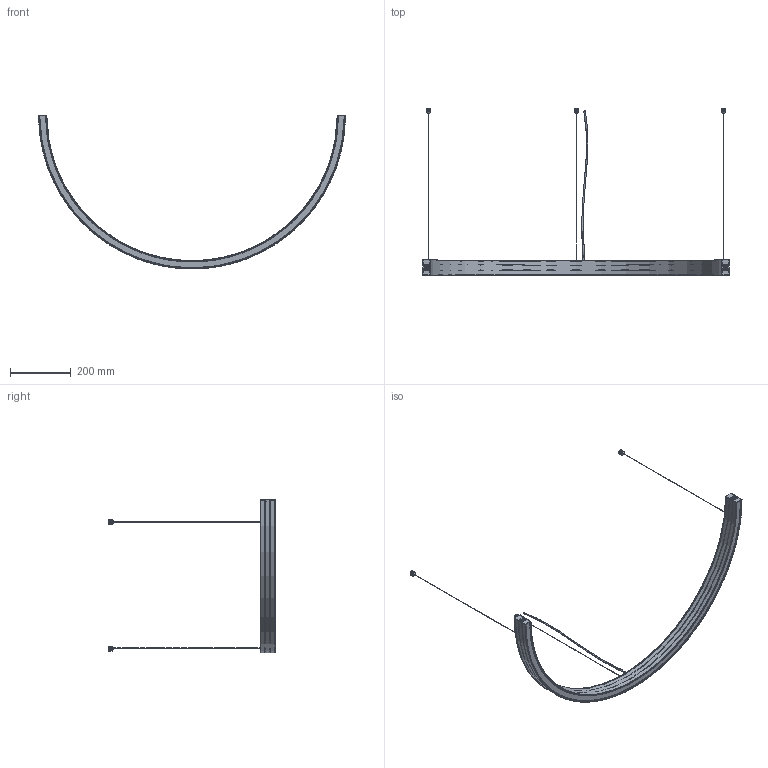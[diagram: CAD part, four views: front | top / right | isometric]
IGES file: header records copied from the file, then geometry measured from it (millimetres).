
Start section: SolidWorks IGES file using analytic representation for surfaces
Global section: file name: L:\Tecnico_PMT\R&D\NEMOstudio\ZIRKOL NEMO\ZIRKOL ROUND (arco)\3D\ZIRKOL ROUND 1M.IGS; native system: SolidWorks 2016; preprocessor: SolidWorks 2016; author: MartinaCornero; date: 230316.100122; units: millimetre
Bounding box: 1010 x 548.57 x 507 mm (x, y, z)
Surface area: 583238.1 mm2 (no closed solid volume)
Topology: 0 solids, 0 shells, 971 faces, 13037 edges, 13021 vertices
Faces by surface type: bspline 610, revolution 361
